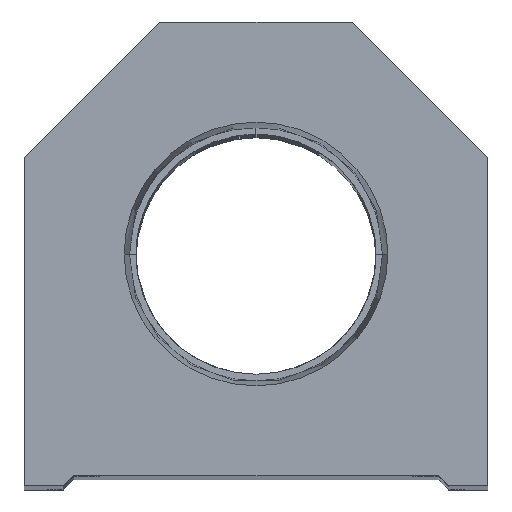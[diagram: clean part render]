
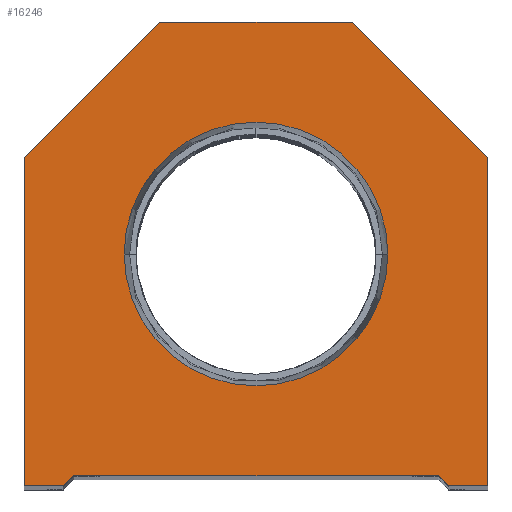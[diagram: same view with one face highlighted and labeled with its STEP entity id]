
A CAD part, top view. The second image highlights one B-rep face of the part: STEP entity #16246.
In plain terms, the highlighted planar face has unit normal (0, 0, 1).
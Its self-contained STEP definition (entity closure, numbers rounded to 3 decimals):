
#46 = VECTOR ( 'NONE', #15461, 1000. ) ;
#294 = EDGE_CURVE ( 'NONE', #7615, #10513, #4207, .T. ) ;
#433 = EDGE_LOOP ( 'NONE', ( #7065, #2157 ) ) ;
#601 = ORIENTED_EDGE ( 'NONE', *, *, #1166, .T. ) ;
#732 = CARTESIAN_POINT ( 'NONE',  ( 9.25, 9.25, 0. ) ) ;
#850 = CARTESIAN_POINT ( 'NONE',  ( 0., 22.25, 0. ) ) ;
#1153 = DIRECTION ( 'NONE',  ( 0.707, -0.707, 0. ) ) ;
#1166 = EDGE_CURVE ( 'NONE', #10513, #15993, #17789, .T. ) ;
#1223 = CARTESIAN_POINT ( 'NONE',  ( -22.25, 31.5, 0. ) ) ;
#1505 = CARTESIAN_POINT ( 'NONE',  ( -9.25, 9.25, 0. ) ) ;
#2001 = VECTOR ( 'NONE', #4723, 1000. ) ;
#2157 = ORIENTED_EDGE ( 'NONE', *, *, #17275, .F. ) ;
#2330 = FACE_BOUND ( 'NONE', #433, .T. ) ;
#2364 = CIRCLE ( 'NONE', #7320, 12.647 ) ;
#2518 = CARTESIAN_POINT ( 'NONE',  ( 0., 22.25, 0. ) ) ;
#3153 = VERTEX_POINT ( 'NONE', #12645 ) ;
#3338 = DIRECTION ( 'NONE',  ( 0., 1., 0. ) ) ;
#3481 = ORIENTED_EDGE ( 'NONE', *, *, #11558, .T. ) ;
#3489 = CARTESIAN_POINT ( 'NONE',  ( -9.25, 44.5, 0. ) ) ;
#3714 = CARTESIAN_POINT ( 'NONE',  ( 22.25, 31.5, 0. ) ) ;
#3935 = CARTESIAN_POINT ( 'NONE',  ( 9.25, 44.5, 0. ) ) ;
#3995 = CARTESIAN_POINT ( 'NONE',  ( -17.5, 1., 0. ) ) ;
#4051 = ORIENTED_EDGE ( 'NONE', *, *, #10688, .T. ) ;
#4101 = VECTOR ( 'NONE', #16712, 1000. ) ;
#4207 = LINE ( 'NONE', #7231, #13988 ) ;
#4723 = DIRECTION ( 'NONE',  ( -0.707, -0.707, 0. ) ) ;
#4749 = CARTESIAN_POINT ( 'NONE',  ( -22.25, 31.5, 0. ) ) ;
#5601 = LINE ( 'NONE', #3935, #11712 ) ;
#5723 = DIRECTION ( 'NONE',  ( -1., 0., 0. ) ) ;
#5768 = FACE_OUTER_BOUND ( 'NONE', #19547, .T. ) ;
#5937 = ORIENTED_EDGE ( 'NONE', *, *, #13821, .T. ) ;
#6320 = LINE ( 'NONE', #1223, #2001 ) ;
#6364 = VERTEX_POINT ( 'NONE', #15827 ) ;
#6384 = CARTESIAN_POINT ( 'NONE',  ( 22.25, 31.5, 0. ) ) ;
#6525 = CARTESIAN_POINT ( 'NONE',  ( 9.25, 44.5, 0. ) ) ;
#6978 = AXIS2_PLACEMENT_3D ( 'NONE', #10937, #17630, #9296 ) ;
#7065 = ORIENTED_EDGE ( 'NONE', *, *, #12399, .F. ) ;
#7231 = CARTESIAN_POINT ( 'NONE',  ( -17.5, 0., 0. ) ) ;
#7320 = AXIS2_PLACEMENT_3D ( 'NONE', #850, #15800, #15908 ) ;
#7439 = VERTEX_POINT ( 'NONE', #21288 ) ;
#7615 = VERTEX_POINT ( 'NONE', #19314 ) ;
#8080 = VECTOR ( 'NONE', #17905, 1000. ) ;
#8331 = LINE ( 'NONE', #15011, #18705 ) ;
#8608 = LINE ( 'NONE', #3714, #4101 ) ;
#9034 = VECTOR ( 'NONE', #11633, 1000. ) ;
#9296 = DIRECTION ( 'NONE',  ( 1., 0., 0. ) ) ;
#9330 = VERTEX_POINT ( 'NONE', #6525 ) ;
#9894 = VERTEX_POINT ( 'NONE', #16221 ) ;
#10312 = AXIS2_PLACEMENT_3D ( 'NONE', #2518, #21103, #20993 ) ;
#10513 = VERTEX_POINT ( 'NONE', #21191 ) ;
#10688 = EDGE_CURVE ( 'NONE', #15993, #9894, #12064, .T. ) ;
#10821 = PLANE ( 'NONE',  #6978 ) ;
#10841 = DIRECTION ( 'NONE',  ( 1., 0., 0. ) ) ;
#10937 = CARTESIAN_POINT ( 'NONE',  ( 0., 0., 0. ) ) ;
#11350 = VERTEX_POINT ( 'NONE', #6384 ) ;
#11388 = CARTESIAN_POINT ( 'NONE',  ( -17.5, 1., 0. ) ) ;
#11518 = LINE ( 'NONE', #14902, #9034 ) ;
#11558 = EDGE_CURVE ( 'NONE', #3153, #11350, #8331, .T. ) ;
#11633 = DIRECTION ( 'NONE',  ( 0., -1., 0. ) ) ;
#11712 = VECTOR ( 'NONE', #5723, 1000. ) ;
#12064 = LINE ( 'NONE', #3995, #46 ) ;
#12313 = EDGE_CURVE ( 'NONE', #9330, #20130, #5601, .T. ) ;
#12399 = EDGE_CURVE ( 'NONE', #7439, #17381, #19086, .T. ) ;
#12645 = CARTESIAN_POINT ( 'NONE',  ( 22.25, 0., 0. ) ) ;
#13821 = EDGE_CURVE ( 'NONE', #6364, #3153, #21215, .T. ) ;
#13963 = ORIENTED_EDGE ( 'NONE', *, *, #16594, .T. ) ;
#13988 = VECTOR ( 'NONE', #10841, 1000. ) ;
#14238 = LINE ( 'NONE', #732, #18918 ) ;
#14812 = EDGE_CURVE ( 'NONE', #18259, #7615, #11518, .T. ) ;
#14902 = CARTESIAN_POINT ( 'NONE',  ( -22.25, 0., 0. ) ) ;
#15011 = CARTESIAN_POINT ( 'NONE',  ( 22.25, 0., 0. ) ) ;
#15461 = DIRECTION ( 'NONE',  ( 1., 0., 0. ) ) ;
#15680 = EDGE_CURVE ( 'NONE', #11350, #9330, #8608, .T. ) ;
#15800 = DIRECTION ( 'NONE',  ( 0., 0., 1. ) ) ;
#15827 = CARTESIAN_POINT ( 'NONE',  ( 18.5, 0., 0. ) ) ;
#15908 = DIRECTION ( 'NONE',  ( 1., 0., 0. ) ) ;
#15993 = VERTEX_POINT ( 'NONE', #11388 ) ;
#16030 = CARTESIAN_POINT ( 'NONE',  ( 17.5, 0., 0. ) ) ;
#16221 = CARTESIAN_POINT ( 'NONE',  ( 17.5, 1., 0. ) ) ;
#16246 = ADVANCED_FACE ( 'NONE', ( #2330, #5768 ), #10821, .T. ) ;
#16594 = EDGE_CURVE ( 'NONE', #20130, #18259, #6320, .T. ) ;
#16655 = CARTESIAN_POINT ( 'NONE',  ( -12.647, 22.25, 0. ) ) ;
#16712 = DIRECTION ( 'NONE',  ( -0.707, 0.707, 0. ) ) ;
#16812 = ORIENTED_EDGE ( 'NONE', *, *, #15680, .T. ) ;
#17275 = EDGE_CURVE ( 'NONE', #17381, #7439, #2364, .T. ) ;
#17381 = VERTEX_POINT ( 'NONE', #16655 ) ;
#17383 = VECTOR ( 'NONE', #18039, 1000. ) ;
#17578 = EDGE_CURVE ( 'NONE', #9894, #6364, #14238, .T. ) ;
#17630 = DIRECTION ( 'NONE',  ( 0., 0., 1. ) ) ;
#17685 = ORIENTED_EDGE ( 'NONE', *, *, #12313, .T. ) ;
#17789 = LINE ( 'NONE', #1505, #8080 ) ;
#17905 = DIRECTION ( 'NONE',  ( 0.707, 0.707, 0. ) ) ;
#18039 = DIRECTION ( 'NONE',  ( 1., 0., 0. ) ) ;
#18259 = VERTEX_POINT ( 'NONE', #4749 ) ;
#18689 = ORIENTED_EDGE ( 'NONE', *, *, #294, .T. ) ;
#18705 = VECTOR ( 'NONE', #3338, 1000. ) ;
#18918 = VECTOR ( 'NONE', #1153, 1000. ) ;
#19086 = CIRCLE ( 'NONE', #10312, 12.647 ) ;
#19314 = CARTESIAN_POINT ( 'NONE',  ( -22.25, 0., 0. ) ) ;
#19547 = EDGE_LOOP ( 'NONE', ( #18689, #601, #4051, #20103, #5937, #3481, #16812, #17685, #13963, #19572 ) ) ;
#19572 = ORIENTED_EDGE ( 'NONE', *, *, #14812, .T. ) ;
#20103 = ORIENTED_EDGE ( 'NONE', *, *, #17578, .T. ) ;
#20130 = VERTEX_POINT ( 'NONE', #3489 ) ;
#20993 = DIRECTION ( 'NONE',  ( 1., 0., 0. ) ) ;
#21103 = DIRECTION ( 'NONE',  ( 0., 0., 1. ) ) ;
#21191 = CARTESIAN_POINT ( 'NONE',  ( -18.5, 0., 0. ) ) ;
#21215 = LINE ( 'NONE', #16030, #17383 ) ;
#21288 = CARTESIAN_POINT ( 'NONE',  ( 12.647, 22.25, 0. ) ) ;
